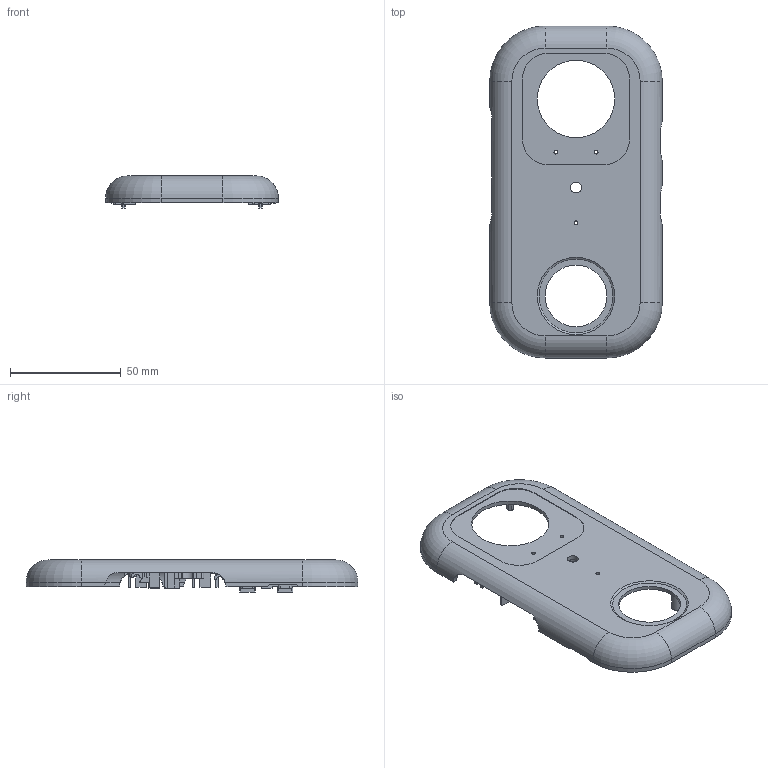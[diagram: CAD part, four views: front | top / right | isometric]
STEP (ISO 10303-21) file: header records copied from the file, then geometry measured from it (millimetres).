
FILE_DESCRIPTION(/* description */ (''),/* implementation_level */ '2;1');
FILE_NAME(/* name */ 'P01.step',/* time_stamp */ '2026-09-14T15:05:30-07:00',/* author */ (''),/* organization */ (''),/* preprocessor_version */ 'ST-DEVELOPER v20.1',/* originating_system */ 'Autodesk Translation Framework v15.8.0.0',/* authorisation */ '');
FILE_SCHEMA (('AUTOMOTIVE_DESIGN { 1 0 10303 214 3 1 1 }'));
Length unit declared in the file: millimetre
Products named in the file (1): 2026-09-14-15-05-30-379
Bounding box: 78 x 150 x 14.51 mm (x, y, z)
Volume: 30344.1 mm3; surface area: 31340 mm2
Topology: 1 solids, 1 shells, 726 faces, 2021 edges, 1336 vertices
Faces by surface type: plane 513, cylinder 193, torus 11, cone 9
Full cylindrical faces by diameter (mm): 1.7 x12, 1.8 x1, 2.1 x4, 3 x4, 4.2 x2, 4.9 x1, 5.6 x1, 5.7 x1, 27.9 x1, 35 x1
Entity records: 24326 total; most frequent: CARTESIAN_POINT 5194, ORIENTED_EDGE 4042, DIRECTION 3936, EDGE_CURVE 2021, LINE 1410, VECTOR 1410, VERTEX_POINT 1336, AXIS2_PLACEMENT_3D 1263
